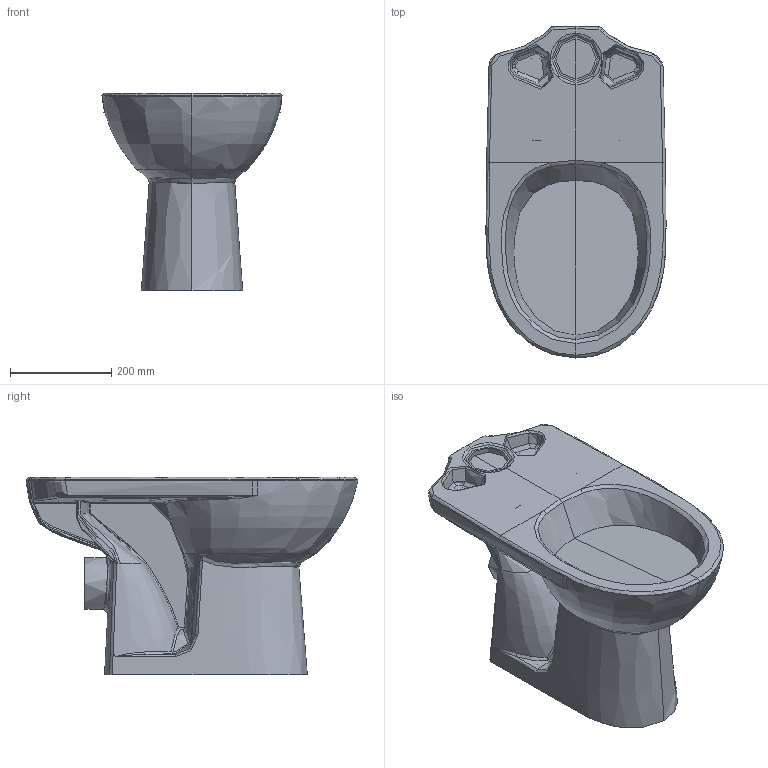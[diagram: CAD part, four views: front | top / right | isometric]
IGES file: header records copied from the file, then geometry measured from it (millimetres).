
Global section: file name: 500282; native system: Autodesk Inventor 2018; preprocessor: unknown; author: JANAN; date: 20200527.082811; units: millimetre
Bounding box: 355.37 x 655 x 390 mm (x, y, z)
Volume: 26975986.3 mm3; surface area: 1017589.6 mm2
Topology: 1 solids, 1 shells, 377 faces, 878 edges, 509 vertices
Faces by surface type: bspline 377
